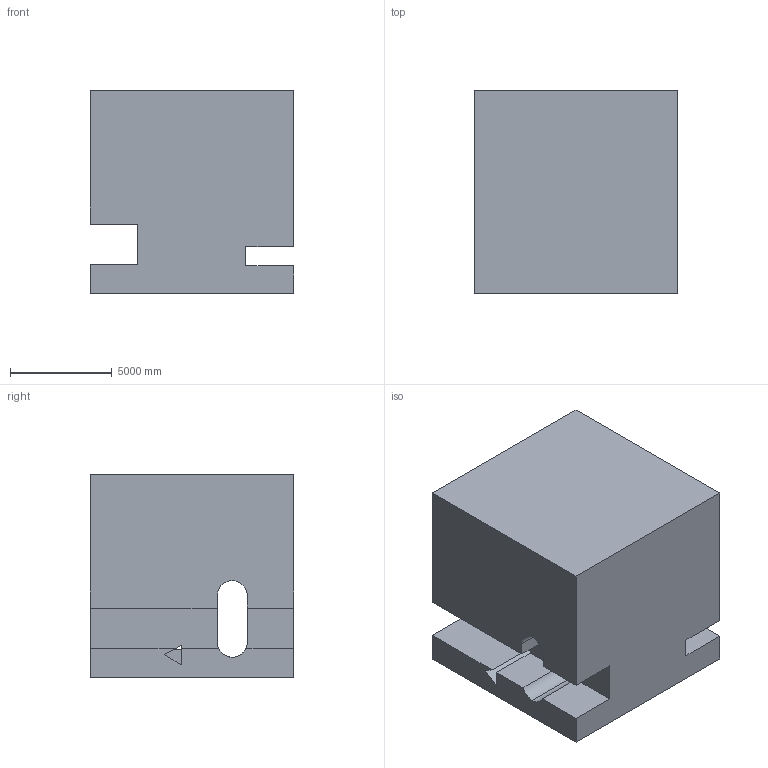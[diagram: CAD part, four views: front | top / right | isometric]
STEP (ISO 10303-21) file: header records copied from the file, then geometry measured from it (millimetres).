
FILE_DESCRIPTION (( 'STEP AP203' ), '1' );
FILE_NAME ('150.STEP', '2022-09-06T15:14:02', ( 'user' ), ( '' ), 'SwSTEP 2.0', 'SolidWorks 2021', '' );
FILE_SCHEMA (( 'CONFIG_CONTROL_DESIGN' ));
Length unit declared in the file: centimetre
Products named in the file (1): 150
Bounding box: 10000 x 10000 x 10000 mm (x, y, z)
Volume: 853683792649.4 mm3; surface area: 781365899.9 mm2
Topology: 1 solids, 1 shells, 40 faces, 126 edges, 84 vertices
Faces by surface type: plane 36, cylinder 4
Entity records: 1468 total; most frequent: ORIENTED_EDGE 252, CARTESIAN_POINT 251, DIRECTION 221, EDGE_CURVE 126, LINE 113, VECTOR 113, VERTEX_POINT 84, AXIS2_PLACEMENT_3D 54
